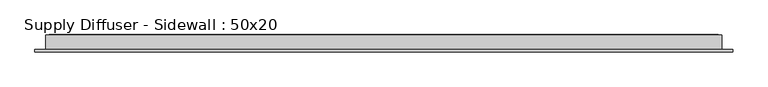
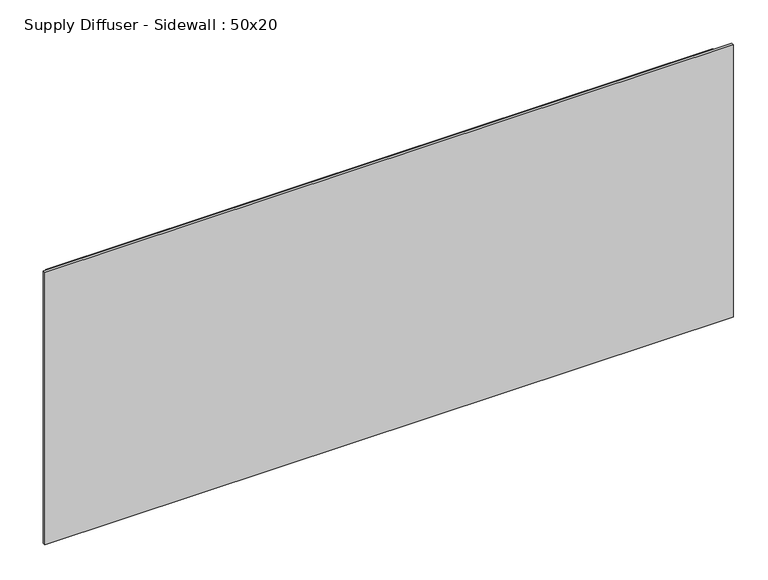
"""IFC4 building model written with IfcOpenShell, lengths in millimetres: air terminal geometry, Supply Diffuser - Sidewall : 50x20."""

from ifc_helpers import new_model, si_unit, origin, place, context, project, spatial, faceted_brep, source, transform, mapped, element, save


def supply_diffuser_sidewall_50x20_67430b31(model_context):
    return source(origin(), model_context, "Body", "Brep", [
        faceted_brep([(655.6375, -4.7625, 274.6375), (-655.6375, -4.7625, 274.6375), (-655.6375, -4.7625, -274.6375), (655.6375, -4.7625, -274.6375), (655.6375, 0.0, 274.6375), (655.6375, 0.0, -274.6375), (-655.6375, 0.0, -274.6375), (-655.6375, 0.0, 274.6375), (-635.0, 0.0, 254.0), (-635.0, 0.0, -254.0), (635.0, 0.0, -254.0), (635.0, 0.0, 254.0), (-635.0, 27.384375, 254.0), (635.0, 27.384375, 254.0), (635.0, 27.384375, -254.0), (-635.0, 27.384375, -254.0), (-628.65, 27.384375, 247.65), (-628.65, 27.384375, -247.65), (628.65, 27.384375, -247.65), (628.65, 27.384375, 247.65), (-628.65, 27.78125, 247.65), (628.65, 27.78125, 247.65), (628.65, 27.78125, -247.65), (-628.65, 27.78125, -247.65)], [[[0, 1, 2, 3]], [[4, 5, 6, 7], [8, 9, 10, 11]], [[1, 0, 4, 7]], [[2, 1, 7, 6]], [[3, 2, 6, 5]], [[0, 3, 5, 4]], [[12, 13, 14, 15], [16, 17, 18, 19]], [[12, 15, 9, 8]], [[15, 14, 10, 9]], [[14, 13, 11, 10]], [[13, 12, 8, 11]], [[20, 21, 22, 23]], [[20, 23, 17, 16]], [[23, 22, 18, 17]], [[22, 21, 19, 18]], [[21, 20, 16, 19]]]),
    ])


if __name__ == "__main__":
    model = new_model("IFC4")
    model_context = context("Model", 3, world=origin())
    ifc_project = project(units=[si_unit("LENGTHUNIT", "METRE", prefix="MILLI")], contexts=[model_context])
    site = spatial("IfcSite", under=ifc_project)
    building = spatial("IfcBuilding", under=site)
    placement = place(None, origin())
    supply_diffuser_sidewall_50x20_shape = supply_diffuser_sidewall_50x20_67430b31(model_context)
    element("IfcAirTerminal", 1, ObjectType="Supply Diffuser - Sidewall : 50x20", at=placement, inside=building, context=model_context, shape_type="MappedRepresentation", body=[
        mapped(supply_diffuser_sidewall_50x20_shape, transform((0.0, 0.0, 0.0), x_axis=(1.0, 0.0, 0.0), y_axis=(0.0, 1.0, 0.0), z_axis=(0.0, 0.0, 1.0))),
    ])
    save(model, "model.ifc")
